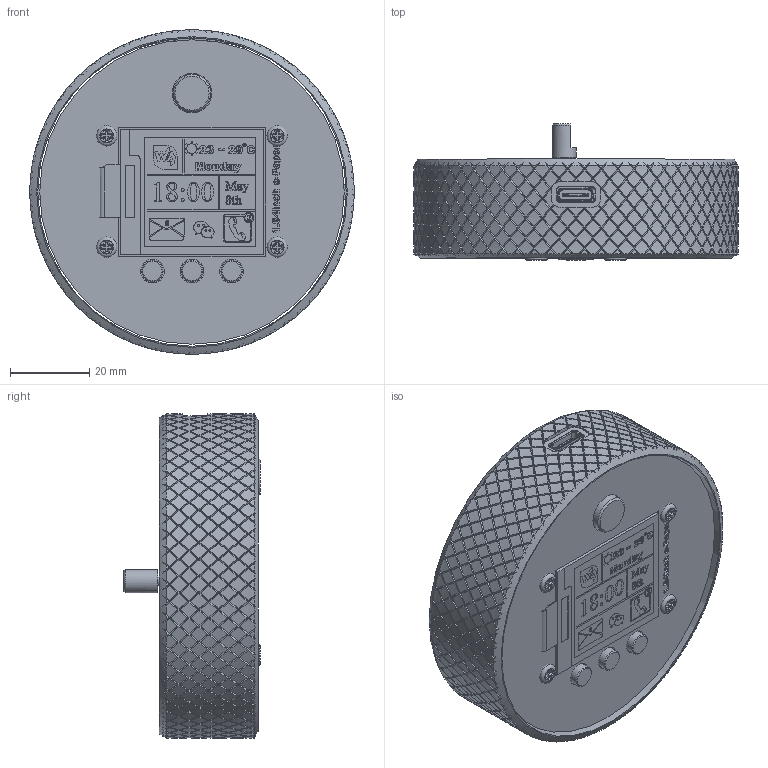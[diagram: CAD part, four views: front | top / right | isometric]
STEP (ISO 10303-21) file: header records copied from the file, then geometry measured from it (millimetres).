
FILE_DESCRIPTION(/* description */ (''),/* implementation_level */ '2;1');
FILE_NAME(/* name */ 'tacto-assembly.step',/* time_stamp */ '2025-11-07T11:47:32+02:00',/* author */ (''),/* organization */ (''),/* preprocessor_version */ 'ST-DEVELOPER v20.1',/* originating_system */ 'Autodesk Translation Framework v14.17.0.0',/* authorisation */ '');
FILE_SCHEMA (('AUTOMOTIVE_DESIGN { 1 0 10303 214 3 1 1 }'));
Products named in the file (77): 2025-10-14-07-23-40-648; 2025-10-14-07-30-10-899; 2025-10-14-04-31-14-301; 2025-10-14-04-31-14-302; 2025-10-14-04-31-14-303; 2025-10-14-04-31-14-305; 2025-10-14-04-31-14-306; 2025-10-14-04-31-14-308; 2025-10-14-04-31-14-310; 2025-10-14-04-31-14-304; 2025-10-14-04-31-14-307; 2025-10-14-04-31-14-309; 2025-10-14-04-31-14-311; 2025-10-14-04-31-14-312; 2025-10-14-07-51-40-944; 2025-10-14-07-53-39-691; 2025-10-14-07-51-40-944_1; 2025-10-14-07-51-40-944_2; 2025-10-16-05-24-12-663; 2025-10-14-07-51-40-944_3; 2025-10-14-04-47-29-875; 2025-10-16-05-24-12-664; 2025-10-14-06-40-13-612; 2025-10-14-06-40-13-613; 2025-10-14-06-40-13-614; 2025-10-14-06-40-13-615; 2025-10-14-06-40-13-616; 2025-10-14-06-40-13-617; 2025-10-14-06-40-13-618; 2025-10-14-06-40-13-619; 2025-10-14-06-40-13-620; 2025-10-14-06-40-13-621; 2025-10-14-06-40-13-622; 2025-10-14-06-40-13-623; 2025-10-14-06-40-13-624; 2025-10-14-06-40-13-625; 2025-10-14-06-40-13-626; 2025-10-14-06-40-13-627; 2025-10-14-06-40-13-628; 2025-10-14-06-40-13-629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
Assembly tree (119 placements, depth 5):
  2025-10-14-07-23-40-648
    2025-10-14-07-30-10-899
      2025-10-14-04-31-14-301
        2025-10-14-04-31-14-302
        2025-10-14-04-31-14-303
        2025-10-14-04-31-14-304  x12
        2025-10-14-04-31-14-305
        2025-10-14-04-31-14-306
        2025-10-14-04-31-14-307  x3
        2025-10-14-04-31-14-308
        2025-10-14-04-31-14-309  x3
        2025-10-14-04-31-14-310
        2025-10-14-04-31-14-311  x4
        2025-10-14-04-31-14-312  x8
    2025-10-14-07-51-40-944
      2025-10-14-04-47-29-875
    2025-10-14-07-53-39-691
    2025-10-14-07-51-40-944_1
      2025-10-14-04-47-29-875
    2025-10-14-07-51-40-944_2
      2025-10-14-04-47-29-875
    2025-10-16-05-24-12-663  x3
    2025-10-14-07-51-40-944_3
      2025-10-14-04-47-29-875
    2025-10-16-05-24-12-664
    2025-10-14-06-40-13-612
      2025-10-14-06-40-13-613
        2025-10-14-06-40-13-614
          2025-10-14-06-40-13-615
          2025-10-14-06-40-13-616
          2025-10-14-06-40-13-617
          2025-10-14-06-40-13-618
          2025-10-14-06-40-13-619
          2025-10-14-06-40-13-620
          2025-10-14-06-40-13-621
          2025-10-14-06-40-13-622
          2025-10-14-06-40-13-623
          2025-10-14-06-40-13-624
          2025-10-14-06-40-13-625
          2025-10-14-06-40-13-626
          2025-10-14-06-40-13-627
          2025-10-14-06-40-13-628
          2025-10-14-06-40-13-629
          2025-10-14-06-40-13-630
          2025-10-14-06-40-13-631
          2025-10-14-06-40-13-632
          2025-10-14-06-40-13-633
          2025-10-14-06-40-13-634
          2025-10-14-06-40-13-635
          2025-10-14-06-40-13-636
          2025-10-14-06-40-13-637
          2025-10-14-06-40-13-638
      2025-10-14-06-40-13-639
      2025-10-14-06-40-13-640
        2025-10-14-06-40-13-641
        2025-10-14-06-40-13-642
      2025-10-14-06-40-13-643
        2025-10-14-06-40-13-644  x2
        2025-10-14-06-40-13-645
        2025-10-14-06-40-13-646
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Bounding box: 82 x 34.42 x 82 mm (x, y, z)
Volume: 27850.6 mm3; surface area: 47158 mm2
Topology: 206 solids, 233 shells, 9122 faces, 21994 edges, 13704 vertices
Faces by surface type: plane 4679, bspline 2751, cylinder 1564, torus 92, cone 22, sphere 14
Full cylindrical faces by diameter (mm): 0.294 x1, 0.3 x2, 0.454 x2, 0.5 x2, 0.508 x2, 0.525 x2, 0.6 x2, 0.75 x14, 0.86 x3, 0.867 x1, 1 x10, 1.2 x16, 1.524 x4, 1.527 x1, 2 x2, 2.037 x1, 2.159 x4, 2.475 x1, 2.972 x12, 3.3 x4, 3.4 x8, 3.5 x2, 5.156 x8, 5.4 x3, 5.9 x1, 6 x3, 7 x1, 9.5 x1, 10 x1, 77 x1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
Entity records: 303529 total; most frequent: CARTESIAN_POINT 130980, ORIENTED_EDGE 39296, DIRECTION 25448, EDGE_CURVE 19648, VERTEX_POINT 12251, LINE 10988, VECTOR 10988, EDGE_LOOP 8645
